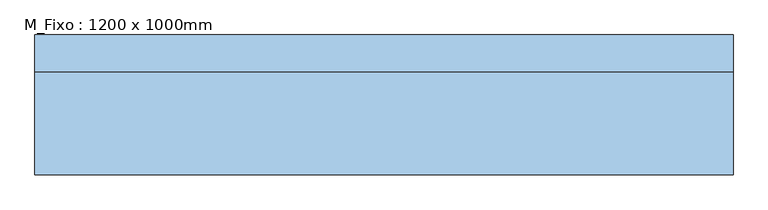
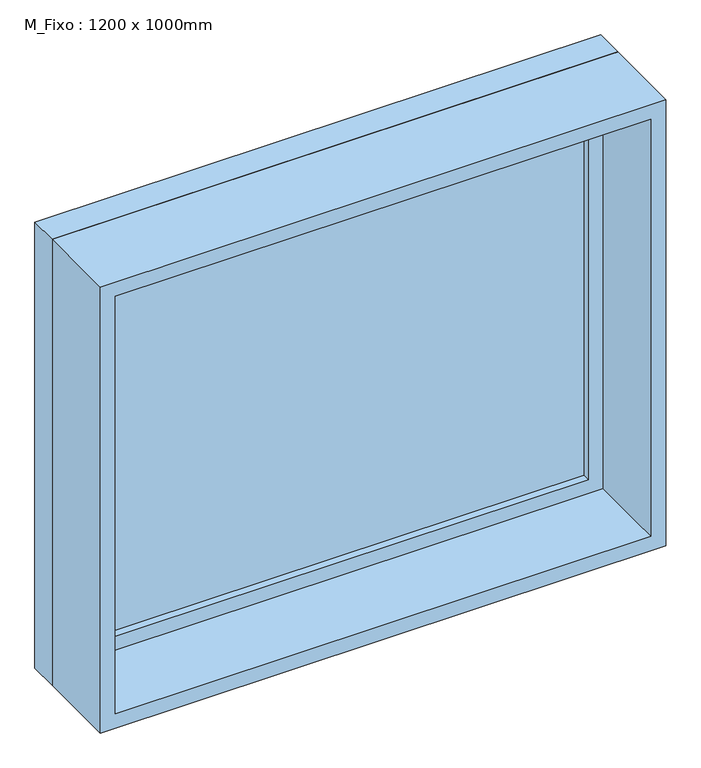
"""IFC4 building model written with IfcOpenShell, lengths in millimetres: window geometry, M_Fixo : 1200 x 1000mm."""

import ifcopenshell
import ifcopenshell.guid

model = None  # the IFC model being written
_history = None  # IfcOwnerHistory: only IFC2X3 demands one
_inside = {}  # id of a spatial element -> (the spatial element, [elements in it])
_under = {}  # id of a project, library or spatial element -> (it, [spatial elements below it])
_declared = {}  # id of a project -> (the project, [libraries it declares])
_typed = {}  # id of a type object -> (the type object, [elements of that type])
_made_of = {}  # id of a material, layer set ... -> (it, [elements and type objects made of it])


def new_model(schema):
    """Start an empty IFC model of exactly this schema.

    Asked for "IFC4X3", IfcOpenShell would pick the latest addendum, in which some entities
    have other attributes; the version numbers below select the first issue.
    IFC2X3 requires an IfcOwnerHistory on every rooted entity: one is made here for all.
    """
    global model, _history
    if schema == "IFC4X3":
        model = ifcopenshell.file(schema_version=(4, 3, 0, 0))
    else:
        model = ifcopenshell.file(schema=schema)
    _inside.clear()
    _under.clear()
    _declared.clear()
    _typed.clear()
    _made_of.clear()
    _history = None
    if model.schema == "IFC2X3":
        org = make("IfcOrganization", Name="unknown")
        user = make(
            "IfcPersonAndOrganization",
            ThePerson=make("IfcPerson", FamilyName="unknown"),
            TheOrganization=org,
        )
        app = make(
            "IfcApplication",
            ApplicationDeveloper=org,
            Version="unknown",
            ApplicationFullName="unknown",
            ApplicationIdentifier="unknown",
        )
        _history = make(
            "IfcOwnerHistory",
            OwningUser=user,
            OwningApplication=app,
            ChangeAction="ADDED",
            CreationDate=0,
        )
    return model


def make(cls, **values):
    """One entity of the class cls with the attributes given. An attribute that is None is left unset."""
    return model.create_entity(
        cls, **{name: value for name, value in values.items() if value is not None}
    )


def rooted(cls, **values):
    """An entity with a GlobalId (a new one), such as an element, a storey or a relation."""
    return make(cls, GlobalId=ifcopenshell.guid.new(), OwnerHistory=_history, **values)


def si_unit(unit_type, name, prefix=None):
    """IfcSIUnit, for example si_unit("LENGTHUNIT", "METRE", prefix="MILLI")."""
    return make("IfcSIUnit", UnitType=unit_type, Prefix=prefix, Name=name)


def assignment(units):
    """IfcUnitAssignment: the units of a project."""
    return None if units is None else make("IfcUnitAssignment", Units=units)


def point(xyz):
    """IfcCartesianPoint."""
    return None if xyz is None else make("IfcCartesianPoint", Coordinates=xyz)


def direction(xyz):
    """IfcDirection."""
    return None if xyz is None else make("IfcDirection", DirectionRatios=xyz)


def frame(location, z_axis=None, x_axis=None):
    """IfcAxis2Placement3D, a coordinate frame: its origin and axes. An axis left out is left unset."""
    return make(
        "IfcAxis2Placement3D",
        Location=point(location),
        Axis=direction(z_axis),
        RefDirection=direction(x_axis),
    )


def origin():
    """The frame at (0, 0, 0) with its axes left unset."""
    return frame((0.0, 0.0, 0.0))


def place(relative_to, where):
    """IfcLocalPlacement: puts the frame where relative to a parent placement (None: the world)."""
    return make(
        "IfcLocalPlacement", PlacementRelTo=relative_to, RelativePlacement=where
    )


def context(
    kind, dimensions, precision=None, world=None, true_north=None, identifier=None
):
    """IfcGeometricRepresentationContext, for example the 3D "Model" context."""
    return make(
        "IfcGeometricRepresentationContext",
        ContextIdentifier=identifier,
        ContextType=kind,
        CoordinateSpaceDimension=dimensions,
        Precision=precision,
        WorldCoordinateSystem=world,
        TrueNorth=true_north,
    )


def project(units=None, contexts=None):
    """IfcProject with its units and contexts."""
    return rooted(
        "IfcProject",
        Name="project",
        RepresentationContexts=contexts,
        UnitsInContext=assignment(units),
    )


def spatial(cls, under=None, at=None, **own):
    """A site, building, storey or space (cls), placed at a placement, below another one or the project."""
    s = rooted(cls, ObjectPlacement=at, **own)
    if under is not None:
        _under.setdefault(under.id(), (under, []))[1].append(s)
    return s


def polyline(points):
    """IfcPolyline through the points."""
    return make("IfcPolyline", Points=[point(p) for p in points])


def outline(outer, holes=None, kind="AREA"):
    """IfcArbitraryClosedProfileDef: a profile drawn as a closed curve; with holes, ...WithVoids."""
    if holes is None:
        return make("IfcArbitraryClosedProfileDef", ProfileType=kind, OuterCurve=outer)
    return make(
        "IfcArbitraryProfileDefWithVoids",
        ProfileType=kind,
        OuterCurve=outer,
        InnerCurves=holes,
    )


def extrude(swept, where, along, depth):
    """IfcExtrudedAreaSolid: the profile swept, set in the frame where, extruded along a direction by depth."""
    return make(
        "IfcExtrudedAreaSolid",
        SweptArea=swept,
        Position=where,
        ExtrudedDirection=direction(along),
        Depth=depth,
    )


def shape(context_of_items, identifier, shape_type, items):
    """IfcShapeRepresentation: the items that make up one representation, for example the "Body"."""
    return make(
        "IfcShapeRepresentation",
        ContextOfItems=context_of_items,
        RepresentationIdentifier=identifier,
        RepresentationType=shape_type,
        Items=items,
    )


def source(mapping_origin, context_of_items, identifier, shape_type, items):
    """IfcRepresentationMap: a shape defined once, which mapped items show again and again."""
    return make(
        "IfcRepresentationMap",
        MappingOrigin=mapping_origin,
        MappedRepresentation=shape(context_of_items, identifier, shape_type, items),
    )


def transform(
    local_origin,
    x_axis=None,
    y_axis=None,
    z_axis=None,
    scale=None,
    scale2=None,
    scale3=None,
    uniform=True,
):
    """IfcCartesianTransformationOperator3D, or its non-uniform kind. x_axis, y_axis, z_axis: its Axis1, 2, 3."""
    if uniform:
        return make(
            "IfcCartesianTransformationOperator3D",
            Axis1=direction(x_axis),
            Axis2=direction(y_axis),
            LocalOrigin=point(local_origin),
            Scale=scale,
            Axis3=direction(z_axis),
        )
    return make(
        "IfcCartesianTransformationOperator3DnonUniform",
        Axis1=direction(x_axis),
        Axis2=direction(y_axis),
        LocalOrigin=point(local_origin),
        Scale=scale,
        Axis3=direction(z_axis),
        Scale2=scale2,
        Scale3=scale3,
    )


def mapped(mapping_source, mapping_target):
    """IfcMappedItem: shows the shape of a source again, moved by a transform."""
    return make(
        "IfcMappedItem", MappingSource=mapping_source, MappingTarget=mapping_target
    )


def made_of(thing, what):
    """Note that an element or type object is made of a material, layer set ...; save() writes the relation."""
    if what is not None:
        _made_of.setdefault(what.id(), (what, []))[1].append(thing)
    return thing


def element(
    cls,
    number,
    at=None,
    inside=None,
    cuts=None,
    type_object=None,
    material=None,
    context=None,
    identifier="Body",
    shape_type=None,
    held_by="IfcProductDefinitionShape",
    body=None,
    shapes=None,
    **own,
):
    """One element of the class cls, such as IfcWall. Its Tag is "e" and its number.

    at: its placement. inside: the storey or other place that contains it. cuts: it is an
    opening in that element (IfcRelVoidsElement). A single representation is given by context,
    identifier, shape_type and body (its items); several are given by shapes. held_by: the class
    of the entity that holds the representations. save() writes the other relations.
    """
    e = rooted(cls, Tag="e%d" % number, ObjectPlacement=at, **own)
    if body is not None:
        shapes = [shape(context, identifier, shape_type, body)]
    if shapes is not None:
        e.Representation = make(held_by, Representations=shapes)
    if inside is not None:
        _inside.setdefault(inside.id(), (inside, []))[1].append(e)
    if cuts is not None:
        rooted(
            "IfcRelVoidsElement", RelatingBuildingElement=cuts, RelatedOpeningElement=e
        )
    if type_object is not None:
        _typed.setdefault(type_object.id(), (type_object, []))[1].append(e)
    return made_of(e, material)


def aggregate(whole, parts):
    """IfcRelAggregates: a whole, such as a stair, and the parts it consists of."""
    return rooted("IfcRelAggregates", RelatingObject=whole, RelatedObjects=parts)


def save(model, path):
    """Write the relations noted so far, then the file.

    IfcRelAggregates (storeys below a building ...), IfcRelContainedInSpatialStructure (elements
    in a storey), IfcRelDefinesByType, IfcRelAssociatesMaterial and IfcRelDeclares: one each for
    every whole, place, type object, material and project.
    """
    for whole, parts in _under.values():
        aggregate(whole, parts)
    for where, things in _inside.values():
        rooted(
            "IfcRelContainedInSpatialStructure",
            RelatedElements=things,
            RelatingStructure=where,
        )
    for kind, things in _typed.values():
        rooted("IfcRelDefinesByType", RelatedObjects=things, RelatingType=kind)
    for what, things in _made_of.values():
        rooted("IfcRelAssociatesMaterial", RelatedObjects=things, RelatingMaterial=what)
    for by, libraries in _declared.values():
        rooted("IfcRelDeclares", RelatingContext=by, RelatedDefinitions=libraries)
    model.write(path)


def m_fixo_1200_x_1000mm_5e5a1228(model_context):
    return source(origin(), model_context, "Body", "SweptSolid", [
        extrude(outline(polyline([(-537.0, 98.0), (537.0, 98.0), (537.0, 86.0), (-537.0, 86.0), (-537.0, 98.0)])), frame((0.0, 0.0, 1463.0), z_axis=(0.0, 0.0, 1.0), x_axis=(1.0, 0.0, 0.0)), (0.0, 0.0, 1.0), 874.0),
        extrude(outline(polyline([(2381.0, -581.0), (1419.0, -581.0), (1419.0, 581.0), (2381.0, 581.0), (2381.0, -581.0)]), holes=[polyline([(2337.0, -537.0), (2337.0, 537.0), (1463.0, 537.0), (1463.0, -537.0), (2337.0, -537.0)])]), frame((0.0, 70.0, 0.0), z_axis=(0.0, 1.0, 0.0), x_axis=(0.0, 0.0, 1.0)), (0.0, 0.0, 1.0), 44.0),
        extrude(outline(polyline([(2400.0, -600.0), (1400.0, -600.0), (1400.0, 600.0), (2400.0, 600.0), (2400.0, -600.0)]), holes=[polyline([(2381.0, -581.0), (2381.0, 581.0), (1419.0, 581.0), (1419.0, -581.0), (2381.0, -581.0)])]), frame((0.0, 70.0, 0.0), z_axis=(0.0, 1.0, 0.0), x_axis=(0.0, 0.0, 1.0)), (0.0, 0.0, 1.0), 63.0),
        extrude(outline(polyline([(2400.0, -600.0), (1400.0, -600.0), (1400.0, 600.0), (2400.0, 600.0), (2400.0, -600.0)]), holes=[polyline([(2368.0, -568.0), (2368.0, 568.0), (1432.0, 568.0), (1432.0, -568.0), (2368.0, -568.0)])]), frame((0.0, -107.0, 0.0), z_axis=(0.0, 1.0, 0.0), x_axis=(0.0, 0.0, 1.0)), (0.0, 0.0, 1.0), 177.0),
    ])


if __name__ == "__main__":
    model = new_model("IFC4")
    model_context = context("Model", 3, world=origin())
    ifc_project = project(units=[si_unit("LENGTHUNIT", "METRE", prefix="MILLI")], contexts=[model_context])
    site = spatial("IfcSite", under=ifc_project)
    building = spatial("IfcBuilding", under=site)
    placement = place(None, origin())
    m_fixo_1200_x_1000mm_shape = m_fixo_1200_x_1000mm_5e5a1228(model_context)
    element("IfcWindow", 1, ObjectType="M_Fixo : 1200 x 1000mm", at=placement, inside=building, context=model_context, shape_type="MappedRepresentation", body=[
        mapped(m_fixo_1200_x_1000mm_shape, transform((0.0, 0.0, 0.0), x_axis=(1.0, 0.0, 0.0), y_axis=(0.0, 1.0, 0.0), z_axis=(0.0, 0.0, 1.0))),
    ])
    save(model, "model.ifc")
